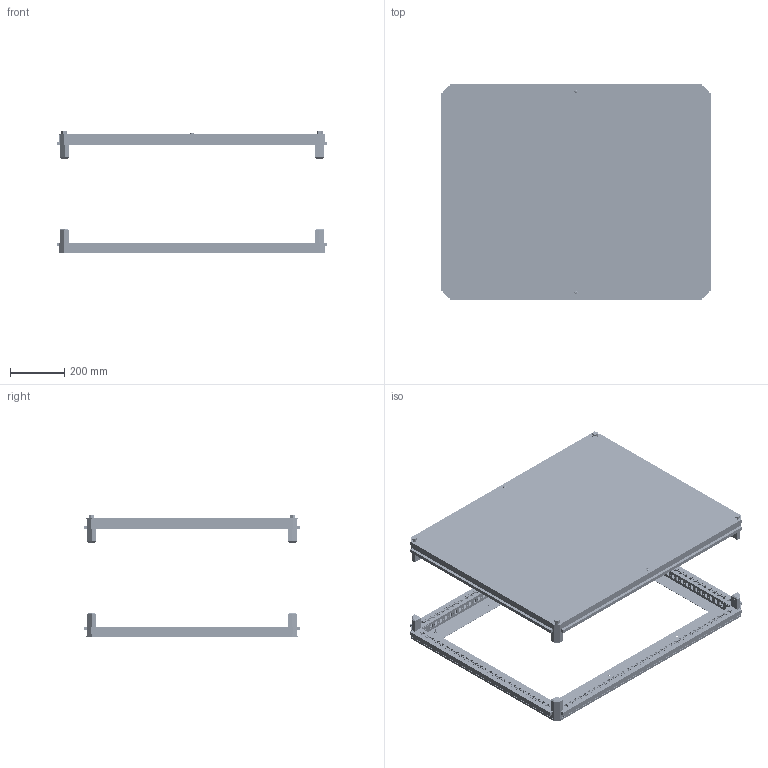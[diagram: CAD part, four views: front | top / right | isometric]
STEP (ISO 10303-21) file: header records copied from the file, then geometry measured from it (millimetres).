
FILE_DESCRIPTION (( 'STEP AP214' ), '1' );
FILE_NAME ('FO-00-KOF-080-100 Êðûøà è îñíîâàíèå (ïîä ôëàíåö) 800õ1000 ìì.STEP', '2025-08-25T12:10:47', ( '' ), ( '' ), 'SwSTEP 2.0', 'SolidWorks 2023', '' );
FILE_SCHEMA (( 'AUTOMOTIVE_DESIGN' ));
Length unit declared in the file: millimetre
Products named in the file (3): Основание под фланец 800х1000; Крыша под фланец 800x1000; FO-00-KOF-080-100 Крыша и основание (под фланец) 800х1000 мм
Assembly tree (2 placements, depth 2):
  FO-00-KOF-080-100 Крыша и основание (под фланец) 800х1000 мм
    Крыша под фланец 800x1000
    Основание под фланец 800х1000
Bounding box: 1000.1 x 800.1 x 446.9 mm (x, y, z)
Volume: 4589523.7 mm3; surface area: 4071556.8 mm2
Topology: 2 solids, 46 shells, 5877 faces, 16558 edges, 10966 vertices
Faces by surface type: plane 3575, cylinder 1860, cone 242, bspline 192, torus 4, sphere 4
Entity records: 198596 total; most frequent: CARTESIAN_POINT 41403, ORIENTED_EDGE 33108, DIRECTION 31154, EDGE_CURVE 16554, VECTOR 11338, LINE 11338, VERTEX_POINT 10966, AXIS2_PLACEMENT_3D 9908
